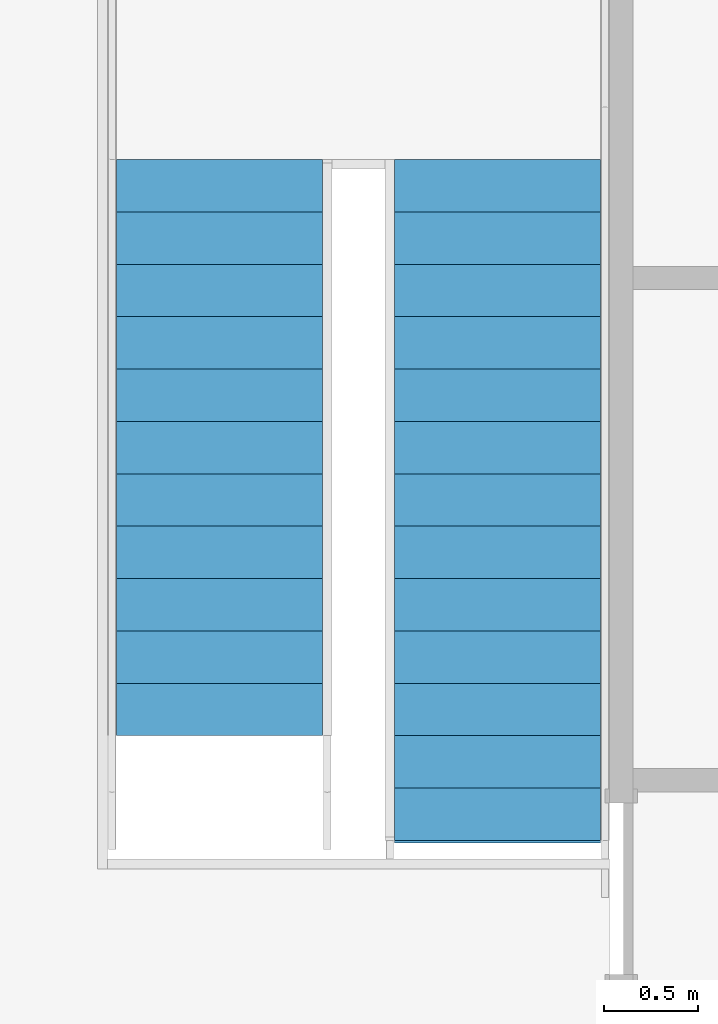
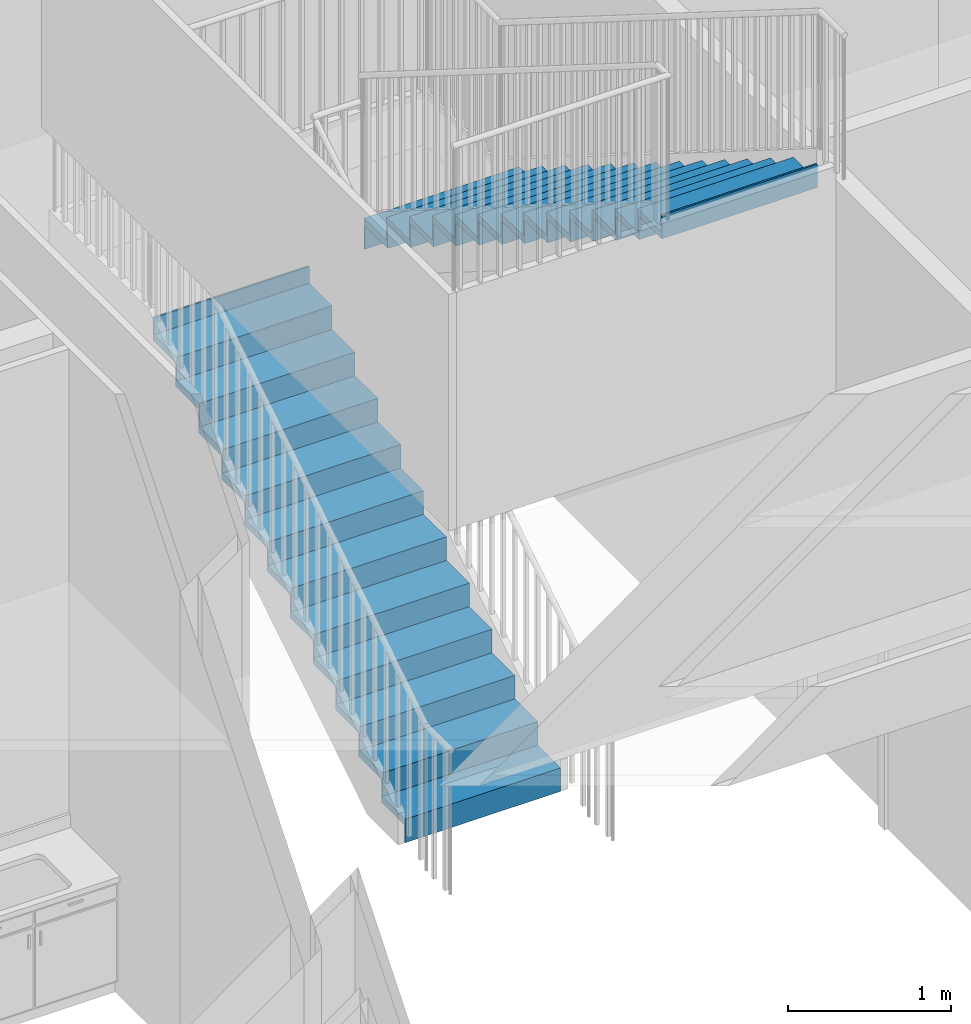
# One storey, part 45 of 87: 2 stair flights, 1 element without a shape of its own.
"""IFC2X3 building model written with IfcOpenShell, lengths in metres."""

import ifcopenshell
import ifcopenshell.guid

model = None  # the IFC model being written
_history = None  # IfcOwnerHistory: only IFC2X3 demands one
_inside = {}  # id of a spatial element -> (the spatial element, [elements in it])
_under = {}  # id of a project, library or spatial element -> (it, [spatial elements below it])
_declared = {}  # id of a project -> (the project, [libraries it declares])
_typed = {}  # id of a type object -> (the type object, [elements of that type])
_made_of = {}  # id of a material, layer set ... -> (it, [elements and type objects made of it])


def new_model(schema):
    """Start an empty IFC model of exactly this schema.

    Asked for "IFC4X3", IfcOpenShell would pick the latest addendum, in which some entities
    have other attributes; the version numbers below select the first issue.
    IFC2X3 requires an IfcOwnerHistory on every rooted entity: one is made here for all.
    """
    global model, _history
    if schema == "IFC4X3":
        model = ifcopenshell.file(schema_version=(4, 3, 0, 0))
    else:
        model = ifcopenshell.file(schema=schema)
    _inside.clear()
    _under.clear()
    _declared.clear()
    _typed.clear()
    _made_of.clear()
    _history = None
    if model.schema == "IFC2X3":
        org = make("IfcOrganization", Name="unknown")
        user = make(
            "IfcPersonAndOrganization",
            ThePerson=make("IfcPerson", FamilyName="unknown"),
            TheOrganization=org,
        )
        app = make(
            "IfcApplication",
            ApplicationDeveloper=org,
            Version="unknown",
            ApplicationFullName="unknown",
            ApplicationIdentifier="unknown",
        )
        _history = make(
            "IfcOwnerHistory",
            OwningUser=user,
            OwningApplication=app,
            ChangeAction="ADDED",
            CreationDate=0,
        )
    return model


def make(cls, **values):
    """One entity of the class cls with the attributes given. An attribute that is None is left unset."""
    return model.create_entity(
        cls, **{name: value for name, value in values.items() if value is not None}
    )


def entity(cls, *values):
    """Any entity or typed value of the class cls, its attributes in the order of the schema. None: left unset."""
    e = model.create_entity(cls)
    for i, value in enumerate(values):
        if value is not None:
            e[i] = value
    return e


def rooted(cls, **values):
    """An entity with a GlobalId (a new one), such as an element, a storey or a relation."""
    return make(cls, GlobalId=ifcopenshell.guid.new(), OwnerHistory=_history, **values)


def si_unit(unit_type, name, prefix=None):
    """IfcSIUnit, for example si_unit("LENGTHUNIT", "METRE", prefix="MILLI")."""
    return make("IfcSIUnit", UnitType=unit_type, Prefix=prefix, Name=name)


def converted_unit(unit_type, name, factor, base, dimensions=None, offset=None):
    """IfcConversionBasedUnit, such as the inch: factor (a typed value) times the base unit."""
    return make(
        "IfcConversionBasedUnit"
        if offset is None
        else "IfcConversionBasedUnitWithOffset",
        ConversionOffset=offset,
        Dimensions=None
        if dimensions is None
        else entity("IfcDimensionalExponents", *dimensions),
        UnitType=unit_type,
        Name=name,
        ConversionFactor=make(
            "IfcMeasureWithUnit", ValueComponent=factor, UnitComponent=base
        ),
    )


def assignment(units):
    """IfcUnitAssignment: the units of a project."""
    return None if units is None else make("IfcUnitAssignment", Units=units)


def point(xyz):
    """IfcCartesianPoint."""
    return None if xyz is None else make("IfcCartesianPoint", Coordinates=xyz)


def direction(xyz):
    """IfcDirection."""
    return None if xyz is None else make("IfcDirection", DirectionRatios=xyz)


def frame(location, z_axis=None, x_axis=None):
    """IfcAxis2Placement3D, a coordinate frame: its origin and axes. An axis left out is left unset."""
    return make(
        "IfcAxis2Placement3D",
        Location=point(location),
        Axis=direction(z_axis),
        RefDirection=direction(x_axis),
    )


def frame_2d(location, x_axis=None):
    """IfcAxis2Placement2D, a coordinate frame in the plane: its origin and x axis."""
    return make(
        "IfcAxis2Placement2D", Location=point(location), RefDirection=direction(x_axis)
    )


def origin():
    """The frame at (0, 0, 0) with its axes left unset."""
    return frame((0.0, 0.0, 0.0))


def origin_2d_with_axis():
    """The frame at (0, 0) in the plane with the x axis (1, 0) written out."""
    return frame_2d((0.0, 0.0), x_axis=(1.0, 0.0))


def place(relative_to, where):
    """IfcLocalPlacement: puts the frame where relative to a parent placement (None: the world)."""
    return make(
        "IfcLocalPlacement", PlacementRelTo=relative_to, RelativePlacement=where
    )


def context(
    kind, dimensions, precision=None, world=None, true_north=None, identifier=None
):
    """IfcGeometricRepresentationContext, for example the 3D "Model" context."""
    return make(
        "IfcGeometricRepresentationContext",
        ContextIdentifier=identifier,
        ContextType=kind,
        CoordinateSpaceDimension=dimensions,
        Precision=precision,
        WorldCoordinateSystem=world,
        TrueNorth=true_north,
    )


def project(units=None, contexts=None):
    """IfcProject with its units and contexts."""
    return rooted(
        "IfcProject",
        Name="project",
        RepresentationContexts=contexts,
        UnitsInContext=assignment(units),
    )


def spatial(cls, under=None, at=None, **own):
    """A site, building, storey or space (cls), placed at a placement, below another one or the project."""
    s = rooted(cls, ObjectPlacement=at, **own)
    if under is not None:
        _under.setdefault(under.id(), (under, []))[1].append(s)
    return s


def profile(cls, at=None, kind="AREA", **sizes):
    """A parametric profile (cls). Its sizes go by their IFC names, for example OverallWidth=200.0."""
    return make(cls, ProfileType=kind, Position=at, **sizes)


def rectangle(**sizes):
    """IfcRectangleProfileDef."""
    return profile("IfcRectangleProfileDef", **sizes)


def extrude(swept, where, along, depth):
    """IfcExtrudedAreaSolid: the profile swept, set in the frame where, extruded along a direction by depth."""
    return make(
        "IfcExtrudedAreaSolid",
        SweptArea=swept,
        Position=where,
        ExtrudedDirection=direction(along),
        Depth=depth,
    )


def shape(context_of_items, identifier, shape_type, items):
    """IfcShapeRepresentation: the items that make up one representation, for example the "Body"."""
    return make(
        "IfcShapeRepresentation",
        ContextOfItems=context_of_items,
        RepresentationIdentifier=identifier,
        RepresentationType=shape_type,
        Items=items,
    )


def made_of(thing, what):
    """Note that an element or type object is made of a material, layer set ...; save() writes the relation."""
    if what is not None:
        _made_of.setdefault(what.id(), (what, []))[1].append(thing)
    return thing


def element(
    cls,
    number,
    at=None,
    inside=None,
    cuts=None,
    type_object=None,
    material=None,
    context=None,
    identifier="Body",
    shape_type=None,
    held_by="IfcProductDefinitionShape",
    body=None,
    shapes=None,
    **own,
):
    """One element of the class cls, such as IfcWall. Its Tag is "e" and its number.

    at: its placement. inside: the storey or other place that contains it. cuts: it is an
    opening in that element (IfcRelVoidsElement). A single representation is given by context,
    identifier, shape_type and body (its items); several are given by shapes. held_by: the class
    of the entity that holds the representations. save() writes the other relations.
    """
    e = rooted(cls, Tag="e%d" % number, ObjectPlacement=at, **own)
    if body is not None:
        shapes = [shape(context, identifier, shape_type, body)]
    if shapes is not None:
        e.Representation = make(held_by, Representations=shapes)
    if inside is not None:
        _inside.setdefault(inside.id(), (inside, []))[1].append(e)
    if cuts is not None:
        rooted(
            "IfcRelVoidsElement", RelatingBuildingElement=cuts, RelatedOpeningElement=e
        )
    if type_object is not None:
        _typed.setdefault(type_object.id(), (type_object, []))[1].append(e)
    return made_of(e, material)


def aggregate(whole, parts):
    """IfcRelAggregates: a whole, such as a stair, and the parts it consists of."""
    return rooted("IfcRelAggregates", RelatingObject=whole, RelatedObjects=parts)


def save(model, path):
    """Write the relations noted so far, then the file.

    IfcRelAggregates (storeys below a building ...), IfcRelContainedInSpatialStructure (elements
    in a storey), IfcRelDefinesByType, IfcRelAssociatesMaterial and IfcRelDeclares: one each for
    every whole, place, type object, material and project.
    """
    for whole, parts in _under.values():
        aggregate(whole, parts)
    for where, things in _inside.values():
        rooted(
            "IfcRelContainedInSpatialStructure",
            RelatedElements=things,
            RelatingStructure=where,
        )
    for kind, things in _typed.values():
        rooted("IfcRelDefinesByType", RelatedObjects=things, RelatingType=kind)
    for what, things in _made_of.values():
        rooted("IfcRelAssociatesMaterial", RelatedObjects=things, RelatingMaterial=what)
    for by, libraries in _declared.values():
        rooted("IfcRelDeclares", RelatingContext=by, RelatedDefinitions=libraries)
    model.write(path)


model = new_model("IFC2X3")

# Units and contexts
model_context = context("Model", 3, precision=1e-09, world=origin())
plan_context = context("Plan", 3, precision=1e-09, world=origin())
ifc_project = project(units=[si_unit("LENGTHUNIT", "METRE"), si_unit("AREAUNIT", "SQUARE_METRE"), si_unit("VOLUMEUNIT", "CUBIC_METRE"), converted_unit("PLANEANGLEUNIT", "DEGREE", entity("IfcRatioMeasure", 0.01745329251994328), si_unit("PLANEANGLEUNIT", "RADIAN"), dimensions=[0, 0, 0, 0, 0, 0, 0]), si_unit("TIMEUNIT", "SECOND")], contexts=[model_context, plan_context])

# Site, building, storey
site_placement = place(None, origin())
site = spatial("IfcSite", under=ifc_project, at=site_placement, Name="Default", CompositionType="ELEMENT")
building_placement = place(site_placement, origin())
building = spatial("IfcBuilding", under=site, at=building_placement, CompositionType="ELEMENT")
storey_placement = place(building_placement, origin())
storey = spatial("IfcBuildingStorey", under=building, at=storey_placement, Name="First Floor", CompositionType="ELEMENT", Elevation=-3.531500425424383e-13)

# Stair, stair flights
stair_placement = place(storey_placement, origin())
stair = element("IfcStair", 1, at=stair_placement, inside=storey, Name="Stair:Concrete Pan - 180mm Max Riser 280mm Tread", ObjectType="Stair:Concrete Pan - 180mm Max Riser 280mm Tread", ShapeType="HALF_TURN_STAIR")
stair_flight_1_placement = place(storey_placement, origin())
stair_flight_1 = element("IfcStairFlight", 2, at=stair_flight_1_placement, Name="Stair:Concrete Pan - 180mm Max Riser 280mm Tread:1", ObjectType="Stair:Concrete Pan - 180mm Max Riser 280mm Tread", NumberOfRiser=12, NumberOfTreads=11, RiserHeight=0.576670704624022, TreadLength=0.9186351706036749, context=model_context, shape_type="SweptSolid", body=[
    extrude(rectangle(XDim=1.100000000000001, YDim=0.01250000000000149, at=origin_2d_with_axis()), frame((-17.40500000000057, 37.88225069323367, 0.0), z_axis=(0.0, 0.0, 1.0), x_axis=(-1.0, 0.0, 0.0)), (0.0, 0.0, 1.0), 0.1257692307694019),
    extrude(rectangle(XDim=0.2800000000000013, YDim=1.100000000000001, at=origin_2d_with_axis()), frame((-17.40500000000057, 38.01600069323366, 0.1257692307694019), z_axis=(0.0, 0.0, 1.0), x_axis=(0.0, -1.0, 0.0)), (0.0, 0.0, 1.0), 0.05),
    extrude(rectangle(XDim=0.2800000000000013, YDim=1.100000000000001, at=origin_2d_with_axis()), frame((-17.40500000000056, 38.29600069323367, 0.3015384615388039), z_axis=(0.0, 0.0, 1.0), x_axis=(0.0, -1.0, 0.0)), (0.0, 0.0, 1.0), 0.05),
    extrude(rectangle(XDim=0.2800000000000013, YDim=1.100000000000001, at=origin_2d_with_axis()), frame((-17.40500000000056, 38.57600069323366, 0.4773076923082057), z_axis=(0.0, 0.0, 1.0), x_axis=(0.0, -1.0, 0.0)), (0.0, 0.0, 1.0), 0.05),
    extrude(rectangle(XDim=0.2800000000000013, YDim=1.100000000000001, at=origin_2d_with_axis()), frame((-17.40500000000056, 38.85600069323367, 0.6530769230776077), z_axis=(0.0, 0.0, 1.0), x_axis=(0.0, -1.0, 0.0)), (0.0, 0.0, 1.0), 0.05),
    extrude(rectangle(XDim=0.2800000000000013, YDim=1.100000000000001, at=origin_2d_with_axis()), frame((-17.40500000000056, 39.13600069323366, 0.8288461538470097), z_axis=(0.0, 0.0, 1.0), x_axis=(0.0, -1.0, 0.0)), (0.0, 0.0, 1.0), 0.05),
    extrude(rectangle(XDim=0.279999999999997, YDim=1.100000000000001, at=origin_2d_with_axis()), frame((-17.40500000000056, 39.41600069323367, 1.004615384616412), z_axis=(0.0, 0.0, 1.0), x_axis=(0.0, -1.0, 0.0)), (0.0, 0.0, 1.0), 0.05),
    extrude(rectangle(XDim=0.279999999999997, YDim=1.100000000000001, at=origin_2d_with_axis()), frame((-17.40500000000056, 39.69600069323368, 1.180384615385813), z_axis=(0.0, 0.0, 1.0), x_axis=(0.0, -1.0, 0.0)), (0.0, 0.0, 1.0), 0.05),
    extrude(rectangle(XDim=0.279999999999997, YDim=1.100000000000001, at=origin_2d_with_axis()), frame((-17.40500000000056, 39.97600069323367, 1.356153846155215), z_axis=(0.0, 0.0, 1.0), x_axis=(0.0, -1.0, 0.0)), (0.0, 0.0, 1.0), 0.05),
    extrude(rectangle(XDim=0.2800000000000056, YDim=1.100000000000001, at=origin_2d_with_axis()), frame((-17.40500000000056, 40.25600069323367, 1.531923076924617), z_axis=(0.0, 0.0, 1.0), x_axis=(0.0, -1.0, 0.0)), (0.0, 0.0, 1.0), 0.05),
    extrude(rectangle(XDim=0.2800000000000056, YDim=1.100000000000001, at=origin_2d_with_axis()), frame((-17.40500000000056, 40.53600069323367, 1.707692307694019), z_axis=(0.0, 0.0, 1.0), x_axis=(0.0, -1.0, 0.0)), (0.0, 0.0, 1.0), 0.05),
    extrude(rectangle(XDim=0.279999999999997, YDim=1.100000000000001, at=origin_2d_with_axis()), frame((-17.40500000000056, 40.81600069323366, 1.883461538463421), z_axis=(0.0, 0.0, 1.0), x_axis=(0.0, -1.0, 0.0)), (0.0, 0.0, 1.0), 0.05),
    extrude(rectangle(XDim=1.099999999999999, YDim=0.01250000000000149, at=origin_2d_with_axis()), frame((-17.40500000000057, 38.16225069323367, 0.1257692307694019), z_axis=(0.0, 0.0, 1.0), x_axis=(-1.0, 0.0, 0.0)), (0.0, 0.0, 1.0), 0.1757692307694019),
    extrude(rectangle(XDim=1.099999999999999, YDim=0.01250000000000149, at=origin_2d_with_axis()), frame((-17.40500000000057, 38.44225069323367, 0.3015384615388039), z_axis=(0.0, 0.0, 1.0), x_axis=(-1.0, 0.0, 0.0)), (0.0, 0.0, 1.0), 0.1757692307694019),
    extrude(rectangle(XDim=1.099999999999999, YDim=0.01250000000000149, at=origin_2d_with_axis()), frame((-17.40500000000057, 38.72225069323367, 0.4773076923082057), z_axis=(0.0, 0.0, 1.0), x_axis=(-1.0, 0.0, 0.0)), (0.0, 0.0, 1.0), 0.1757692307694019),
    extrude(rectangle(XDim=1.099999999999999, YDim=0.01250000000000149, at=origin_2d_with_axis()), frame((-17.40500000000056, 39.00225069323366, 0.6530769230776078), z_axis=(0.0, 0.0, 1.0), x_axis=(-1.0, 0.0, 0.0)), (0.0, 0.0, 1.0), 0.1757692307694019),
    extrude(rectangle(XDim=1.099999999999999, YDim=0.01250000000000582, at=origin_2d_with_axis()), frame((-17.40500000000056, 39.28225069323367, 0.8288461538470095), z_axis=(0.0, 0.0, 1.0), x_axis=(-1.0, 0.0, 0.0)), (0.0, 0.0, 1.0), 0.1757692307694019),
    extrude(rectangle(XDim=1.099999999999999, YDim=0.01250000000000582, at=origin_2d_with_axis()), frame((-17.40500000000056, 39.56225069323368, 1.004615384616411), z_axis=(0.0, 0.0, 1.0), x_axis=(-1.0, 0.0, 0.0)), (0.0, 0.0, 1.0), 0.1757692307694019),
    extrude(rectangle(XDim=1.099999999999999, YDim=0.01249999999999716, at=origin_2d_with_axis()), frame((-17.40500000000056, 39.84225069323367, 1.180384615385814), z_axis=(0.0, 0.0, 1.0), x_axis=(-1.0, 0.0, 0.0)), (0.0, 0.0, 1.0), 0.1757692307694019),
    extrude(rectangle(XDim=1.099999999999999, YDim=0.01250000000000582, at=origin_2d_with_axis()), frame((-17.40500000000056, 40.12225069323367, 1.356153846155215), z_axis=(0.0, 0.0, 1.0), x_axis=(-1.0, 0.0, 0.0)), (0.0, 0.0, 1.0), 0.1757692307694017),
    extrude(rectangle(XDim=1.099999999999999, YDim=0.01250000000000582, at=origin_2d_with_axis()), frame((-17.40500000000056, 40.40225069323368, 1.531923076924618), z_axis=(0.0, 0.0, 1.0), x_axis=(-1.0, 0.0, 0.0)), (0.0, 0.0, 1.0), 0.1757692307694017),
    extrude(rectangle(XDim=1.099999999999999, YDim=0.01249999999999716, at=origin_2d_with_axis()), frame((-17.40500000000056, 40.68225069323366, 1.707692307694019), z_axis=(0.0, 0.0, 1.0), x_axis=(-1.0, 0.0, 0.0)), (0.0, 0.0, 1.0), 0.1757692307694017),
    extrude(rectangle(XDim=1.100000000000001, YDim=0.01249999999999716, at=origin_2d_with_axis()), frame((-17.40500000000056, 40.96225069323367, 1.883461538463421), z_axis=(0.0, 0.0, 1.0), x_axis=(-1.0, 0.0, 0.0)), (0.0, 0.0, 1.0), 0.175769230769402),
])
stair_flight_2_placement = place(storey_placement, origin())
stair_flight_2 = element("IfcStairFlight", 3, at=stair_flight_2_placement, Name="Stair:Concrete Pan - 180mm Max Riser 280mm Tread:2", ObjectType="Stair:Concrete Pan - 180mm Max Riser 280mm Tread", NumberOfRiser=14, NumberOfTreads=13, RiserHeight=0.576670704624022, TreadLength=0.9186351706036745, context=model_context, shape_type="SweptSolid", body=[
    extrude(rectangle(XDim=0.279999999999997, YDim=1.100000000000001, at=origin_2d_with_axis()), frame((-15.9200000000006, 40.81600069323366, 2.235000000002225), z_axis=(0.0, 0.0, 1.0), x_axis=(0.0, 1.0, 0.0)), (0.0, 0.0, 1.0), 0.05),
    extrude(rectangle(XDim=1.100000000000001, YDim=0.01250000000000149, at=origin_2d_with_axis()), frame((-15.9200000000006, 37.30975069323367, 4.344230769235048)), (0.0, 0.0, 1.0), 0.1757692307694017),
    extrude(rectangle(XDim=1.100000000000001, YDim=0.01249999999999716, at=origin_2d_with_axis()), frame((-15.9200000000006, 40.94975069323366, 2.059230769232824)), (0.0, 0.0, 1.0), 0.175769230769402),
    extrude(rectangle(XDim=1.100000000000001, YDim=0.01249999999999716, at=origin_2d_with_axis()), frame((-15.9200000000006, 40.66975069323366, 2.235000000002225)), (0.0, 0.0, 1.0), 0.175769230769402),
    extrude(rectangle(XDim=0.279999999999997, YDim=1.100000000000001, at=origin_2d_with_axis()), frame((-15.9200000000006, 40.53600069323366, 2.410769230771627), z_axis=(0.0, 0.0, 1.0), x_axis=(0.0, 1.0, 0.0)), (0.0, 0.0, 1.0), 0.05),
    extrude(rectangle(XDim=1.100000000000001, YDim=0.01249999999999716, at=origin_2d_with_axis()), frame((-15.9200000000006, 40.38975069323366, 2.410769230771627)), (0.0, 0.0, 1.0), 0.175769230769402),
    extrude(rectangle(XDim=0.279999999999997, YDim=1.100000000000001, at=origin_2d_with_axis()), frame((-15.9200000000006, 40.25600069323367, 2.586538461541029), z_axis=(0.0, 0.0, 1.0), x_axis=(0.0, 1.0, 0.0)), (0.0, 0.0, 1.0), 0.05),
    extrude(rectangle(XDim=1.100000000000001, YDim=0.01249999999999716, at=origin_2d_with_axis()), frame((-15.9200000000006, 40.10975069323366, 2.586538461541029)), (0.0, 0.0, 1.0), 0.1757692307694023),
    extrude(rectangle(XDim=0.279999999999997, YDim=1.100000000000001, at=origin_2d_with_axis()), frame((-15.9200000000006, 39.97600069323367, 2.762307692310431), z_axis=(0.0, 0.0, 1.0), x_axis=(0.0, 1.0, 0.0)), (0.0, 0.0, 1.0), 0.05),
    extrude(rectangle(XDim=1.100000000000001, YDim=0.01249999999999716, at=origin_2d_with_axis()), frame((-15.9200000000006, 39.82975069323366, 2.76230769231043)), (0.0, 0.0, 1.0), 0.1757692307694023),
    extrude(rectangle(XDim=0.279999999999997, YDim=1.100000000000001, at=origin_2d_with_axis()), frame((-15.9200000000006, 39.69600069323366, 2.938076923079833), z_axis=(0.0, 0.0, 1.0), x_axis=(0.0, 1.0, 0.0)), (0.0, 0.0, 1.0), 0.05),
    extrude(rectangle(XDim=1.100000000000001, YDim=0.01249999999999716, at=origin_2d_with_axis()), frame((-15.9200000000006, 39.54975069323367, 2.938076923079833)), (0.0, 0.0, 1.0), 0.1757692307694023),
    extrude(rectangle(XDim=0.279999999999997, YDim=1.100000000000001, at=origin_2d_with_axis()), frame((-15.9200000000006, 39.41600069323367, 3.113846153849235), z_axis=(0.0, 0.0, 1.0), x_axis=(0.0, 1.0, 0.0)), (0.0, 0.0, 1.0), 0.05),
    extrude(rectangle(XDim=1.100000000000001, YDim=0.01249999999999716, at=origin_2d_with_axis()), frame((-15.9200000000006, 39.26975069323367, 3.113846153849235)), (0.0, 0.0, 1.0), 0.1757692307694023),
    extrude(rectangle(XDim=0.279999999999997, YDim=1.100000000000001, at=origin_2d_with_axis()), frame((-15.9200000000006, 39.13600069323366, 3.289615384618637), z_axis=(0.0, 0.0, 1.0), x_axis=(0.0, 1.0, 0.0)), (0.0, 0.0, 1.0), 0.05),
    extrude(rectangle(XDim=1.100000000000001, YDim=0.01249999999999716, at=origin_2d_with_axis()), frame((-15.9200000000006, 38.98975069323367, 3.289615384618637)), (0.0, 0.0, 1.0), 0.1757692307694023),
    extrude(rectangle(XDim=0.279999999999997, YDim=1.100000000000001, at=origin_2d_with_axis()), frame((-15.9200000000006, 38.85600069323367, 3.465384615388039), z_axis=(0.0, 0.0, 1.0), x_axis=(0.0, 1.0, 0.0)), (0.0, 0.0, 1.0), 0.05),
    extrude(rectangle(XDim=1.100000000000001, YDim=0.01249999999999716, at=origin_2d_with_axis()), frame((-15.9200000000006, 38.70975069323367, 3.465384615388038)), (0.0, 0.0, 1.0), 0.1757692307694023),
    extrude(rectangle(XDim=0.279999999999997, YDim=1.100000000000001, at=origin_2d_with_axis()), frame((-15.9200000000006, 38.57600069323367, 3.641153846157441), z_axis=(0.0, 0.0, 1.0), x_axis=(0.0, 1.0, 0.0)), (0.0, 0.0, 1.0), 0.05),
    extrude(rectangle(XDim=1.100000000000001, YDim=0.01249999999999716, at=origin_2d_with_axis()), frame((-15.9200000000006, 38.42975069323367, 3.64115384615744)), (0.0, 0.0, 1.0), 0.1757692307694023),
    extrude(rectangle(XDim=0.279999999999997, YDim=1.100000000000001, at=origin_2d_with_axis()), frame((-15.9200000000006, 38.29600069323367, 3.816923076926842), z_axis=(0.0, 0.0, 1.0), x_axis=(0.0, 1.0, 0.0)), (0.0, 0.0, 1.0), 0.05),
    extrude(rectangle(XDim=1.100000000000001, YDim=0.01249999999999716, at=origin_2d_with_axis()), frame((-15.9200000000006, 38.14975069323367, 3.816923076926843)), (0.0, 0.0, 1.0), 0.1757692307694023),
    extrude(rectangle(XDim=0.279999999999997, YDim=1.100000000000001, at=origin_2d_with_axis()), frame((-15.9200000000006, 38.01600069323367, 3.992692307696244), z_axis=(0.0, 0.0, 1.0), x_axis=(0.0, 1.0, 0.0)), (0.0, 0.0, 1.0), 0.05),
    extrude(rectangle(XDim=1.100000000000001, YDim=0.01249999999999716, at=origin_2d_with_axis()), frame((-15.9200000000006, 37.86975069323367, 3.992692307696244)), (0.0, 0.0, 1.0), 0.1757692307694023),
    extrude(rectangle(XDim=0.279999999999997, YDim=1.100000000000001, at=origin_2d_with_axis()), frame((-15.9200000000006, 37.73600069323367, 4.168461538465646), z_axis=(0.0, 0.0, 1.0), x_axis=(0.0, 1.0, 0.0)), (0.0, 0.0, 1.0), 0.05),
    extrude(rectangle(XDim=1.100000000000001, YDim=0.01249999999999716, at=origin_2d_with_axis()), frame((-15.9200000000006, 37.58975069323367, 4.168461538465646)), (0.0, 0.0, 1.0), 0.1757692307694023),
    extrude(rectangle(XDim=0.279999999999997, YDim=1.100000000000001, at=origin_2d_with_axis()), frame((-15.9200000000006, 37.45600069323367, 4.344230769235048), z_axis=(0.0, 0.0, 1.0), x_axis=(0.0, 1.0, 0.0)), (0.0, 0.0, 1.0), 0.05),
])
aggregate(stair, [stair_flight_1, stair_flight_2])

save(model, "model.ifc")
